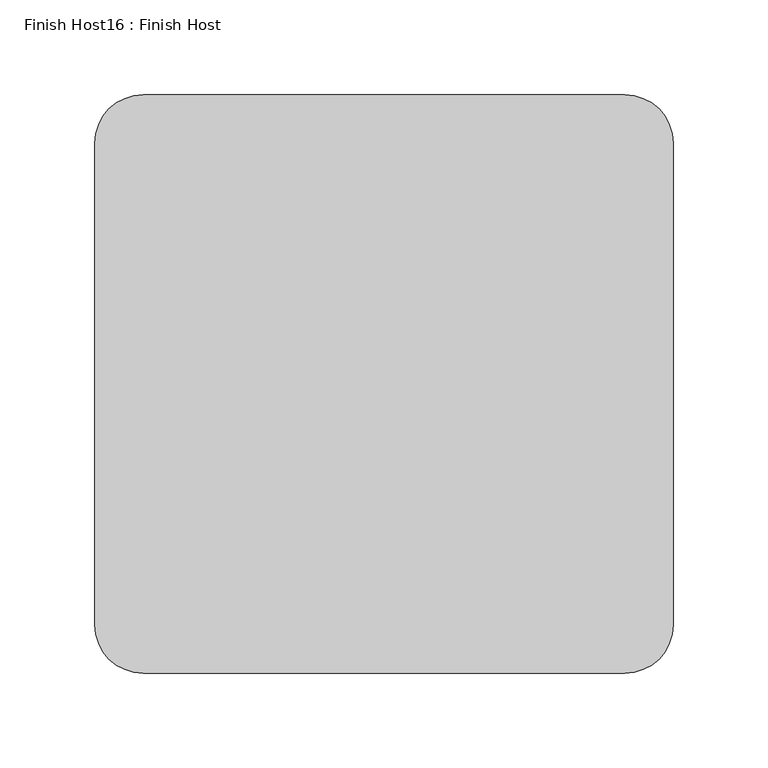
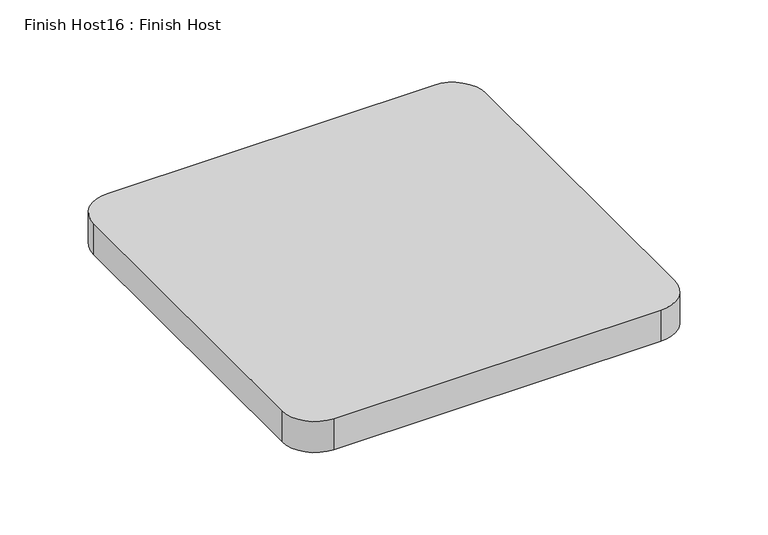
"""IFC4 building model written with IfcOpenShell, lengths in millimetres: proxy geometry, Finish Host16 : Finish Host."""

from ifc_helpers import new_model, si_unit, point, frame_2d, origin, origin_with_axes, place, context, project, spatial, polyline, circle_curve, trimmed, segment, composite_curve, outline, extrude, source, transform, mapped, element, save


def finish_host16_finish_host_6ca5a889(model_context):
    return source(origin(), model_context, "Body", "SweptSolid", [
        extrude(outline(composite_curve([segment(polyline([(1190.1649374, 1413.7667263), (1190.1649374, 1667.7667263)]), True, "CONTINUOUS"), segment(trimmed(circle_curve(frame_2d((1215.5649374, 1667.7667263)), 25.4), [point((1190.1649374, 1667.7667263))], [point((1215.5649374, 1693.1667263))], False, "CARTESIAN"), True, "CONTINUOUS"), segment(polyline([(1215.5649374, 1693.1667263), (1469.5649374, 1693.1667263)]), True, "CONTINUOUS"), segment(trimmed(circle_curve(frame_2d((1469.5649374, 1667.7667263)), 25.4), [point((1469.5649374, 1693.1667263))], [point((1494.9649374, 1667.7667263))], False, "CARTESIAN"), True, "CONTINUOUS"), segment(polyline([(1494.9649374, 1667.7667263), (1494.9649374, 1413.7667263)]), True, "CONTINUOUS"), segment(trimmed(circle_curve(frame_2d((1469.5649374, 1413.7667263)), 25.4), [point((1494.9649374, 1413.7667263))], [point((1469.5649374, 1388.3667263))], False, "CARTESIAN"), True, "CONTINUOUS"), segment(polyline([(1469.5649374, 1388.3667263), (1215.5649374, 1388.3667263)]), True, "CONTINUOUS"), segment(trimmed(circle_curve(frame_2d((1215.5649374, 1413.7667263)), 25.4), [point((1215.5649374, 1388.3667263))], [point((1190.1649374, 1413.7667263))], False, "CARTESIAN"), True, "CONTINUOUS")], self_intersect=False)), origin_with_axes(), (0.0, 0.0, 1.0), 25.4),
    ])


if __name__ == "__main__":
    model = new_model("IFC4")
    model_context = context("Model", 3, world=origin())
    ifc_project = project(units=[si_unit("LENGTHUNIT", "METRE", prefix="MILLI")], contexts=[model_context])
    site = spatial("IfcSite", under=ifc_project)
    building = spatial("IfcBuilding", under=site)
    placement = place(None, origin())
    finish_host16_finish_host_shape = finish_host16_finish_host_6ca5a889(model_context)
    element("IfcBuildingElementProxy", 1, Name="Finish Host16 : Finish Host", ObjectType="Finish Host16 : Finish Host", at=placement, inside=building, context=model_context, shape_type="MappedRepresentation", body=[
        mapped(finish_host16_finish_host_shape, transform((0.0, 0.0, 0.0), x_axis=(1.0, 0.0, 0.0), y_axis=(0.0, 1.0, 0.0), z_axis=(0.0, 0.0, 1.0))),
    ])
    save(model, "model.ifc")
